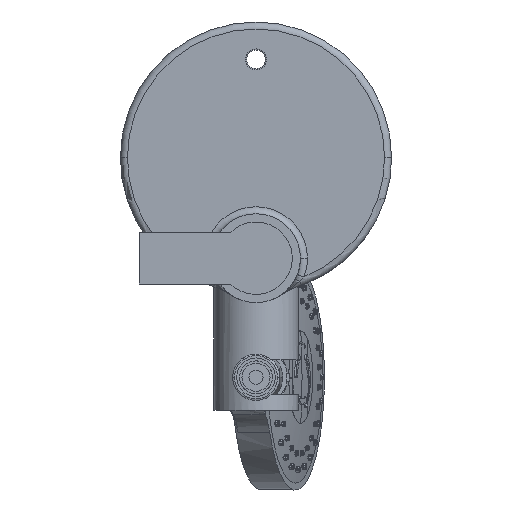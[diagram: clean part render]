
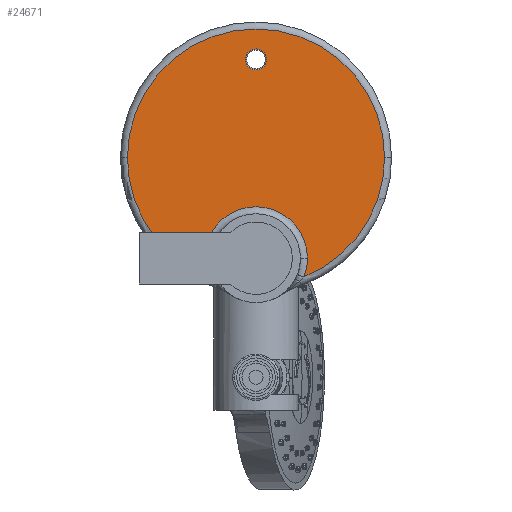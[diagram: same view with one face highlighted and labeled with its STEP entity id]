
A CAD part, front view. The second image highlights one B-rep face of the part: STEP entity #24671.
In plain terms, the highlighted planar face has unit normal (0, -1, 0).
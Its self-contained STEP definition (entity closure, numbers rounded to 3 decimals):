
#23471=CARTESIAN_POINT('',(-85.164,-94.173,43.));
#23472=DIRECTION('',(0.,-1.,0.));
#23473=DIRECTION('',(0.372,0.,-0.928));
#23474=AXIS2_PLACEMENT_3D('',#23471,#23472,#23473);
#23476=CARTESIAN_POINT('',(-85.164,-94.173,
0.));
#23477=DIRECTION('',(0.,1.,0.));
#23478=DIRECTION('',(1.,0.,0.));
#23479=AXIS2_PLACEMENT_3D('',#23476,#23477,#23478);
#23481=CARTESIAN_POINT('',(-85.164,-94.173,
0.));
#23482=DIRECTION('',(0.,1.,0.));
#23483=DIRECTION('',(-1.,0.,0.));
#23484=AXIS2_PLACEMENT_3D('',#23481,#23482,#23483);
#23486=CARTESIAN_POINT('',(-85.164,-94.173,
0.));
#23487=DIRECTION('',(0.,1.,0.));
#23488=DIRECTION('',(-0.931,0.,-0.366));
#23489=AXIS2_PLACEMENT_3D('',#23486,#23487,#23488);
#23491=CARTESIAN_POINT('',(-85.164,-94.173,43.));
#23492=DIRECTION('',(0.,-1.,0.));
#23493=DIRECTION('',(-1.,0.,0.));
#23494=AXIS2_PLACEMENT_3D('',#23491,#23492,#23493);
#23496=CARTESIAN_POINT('',(-85.164,-94.173,43.));
#23497=DIRECTION('',(0.,-1.,0.));
#23498=DIRECTION('',(1.,0.,0.));
#23499=AXIS2_PLACEMENT_3D('',#23496,#23497,#23498);
#23501=CARTESIAN_POINT('',(-85.164,-94.173,85.));
#23502=DIRECTION('',(0.,1.,0.));
#23503=DIRECTION('',(-1.,0.,0.));
#23504=AXIS2_PLACEMENT_3D('',#23501,#23502,#23503);
#23506=CARTESIAN_POINT('',(-85.164,-94.173,85.));
#23507=DIRECTION('',(0.,1.,0.));
#23508=DIRECTION('',(1.,0.,0.));
#23509=AXIS2_PLACEMENT_3D('',#23506,#23507,#23508);
#24037=CARTESIAN_POINT('',(-63.164,-94.173,
0.));
#24039=VERTEX_POINT('',#24037);
#24040=CARTESIAN_POINT('',(-64.688,-94.173,
-8.047));
#24041=VERTEX_POINT('',#24040);
#24044=CARTESIAN_POINT('',(-107.164,-94.173,
0.));
#24045=VERTEX_POINT('',#24044);
#24048=CARTESIAN_POINT('',(-30.164,-94.173,43.));
#24049=CARTESIAN_POINT('',(-140.164,-94.173,43.));
#24050=VERTEX_POINT('',#24048);
#24051=VERTEX_POINT('',#24049);
#24056=CARTESIAN_POINT('',(-105.639,-94.173,
-8.047));
#24057=VERTEX_POINT('',#24056);
#24157=CARTESIAN_POINT('',(-80.664,-94.173,85.));
#24158=VERTEX_POINT('',#24157);
#24159=CARTESIAN_POINT('',(-89.664,-94.173,85.));
#24160=VERTEX_POINT('',#24159);
#24648=CARTESIAN_POINT('',(-85.164,-94.173,43.));
#24649=DIRECTION('',(0.,1.,0.));
#24650=DIRECTION('',(-1.,0.,0.));
#24651=AXIS2_PLACEMENT_3D('',#24648,#24649,#24650);
#24652=PLANE('',#24651);
#24654=ORIENTED_EDGE('',*,*,#24653,.F.);
#24655=ORIENTED_EDGE('',*,*,#24639,.F.);
#24656=ORIENTED_EDGE('',*,*,#24629,.F.);
#24658=ORIENTED_EDGE('',*,*,#24657,.F.);
#24660=ORIENTED_EDGE('',*,*,#24659,.F.);
#24662=ORIENTED_EDGE('',*,*,#24661,.F.);
#24663=EDGE_LOOP('',(#24654,#24655,#24656,#24658,#24660,#24662));
#24664=FACE_OUTER_BOUND('',#24663,.F.);
#24666=ORIENTED_EDGE('',*,*,#24665,.F.);
#24668=ORIENTED_EDGE('',*,*,#24667,.F.);
#24669=EDGE_LOOP('',(#24666,#24668));
#24670=FACE_BOUND('',#24669,.F.);
#24671=ADVANCED_FACE('',(#24664,#24670),#24652,.F.);
#23475=CIRCLE('',#23474,55.);
#23480=CIRCLE('',#23479,22.);
#23485=CIRCLE('',#23484,22.);
#23490=CIRCLE('',#23489,22.);
#23495=CIRCLE('',#23494,55.);
#23500=CIRCLE('',#23499,55.);
#23505=CIRCLE('',#23504,4.5);
#23510=CIRCLE('',#23509,4.5);
#24629=EDGE_CURVE('',#24045,#24039,#23485,.T.);
#24639=EDGE_CURVE('',#24039,#24041,#23480,.T.);
#24653=EDGE_CURVE('',#24041,#24050,#23475,.T.);
#24657=EDGE_CURVE('',#24057,#24045,#23490,.T.);
#24659=EDGE_CURVE('',#24051,#24057,#23495,.T.);
#24661=EDGE_CURVE('',#24050,#24051,#23500,.T.);
#24665=EDGE_CURVE('',#24160,#24158,#23505,.T.);
#24667=EDGE_CURVE('',#24158,#24160,#23510,.T.);
